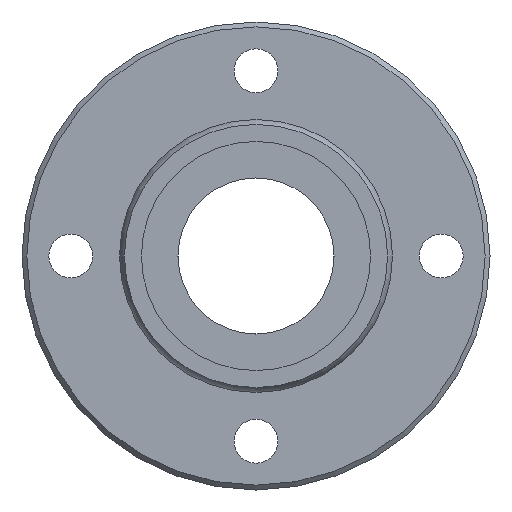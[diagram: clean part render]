
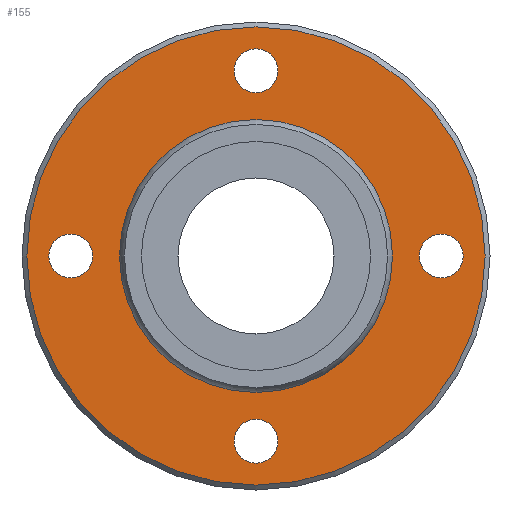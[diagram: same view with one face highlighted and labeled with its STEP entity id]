
A CAD part, left-side view. The second image highlights one B-rep face of the part: STEP entity #155.
In plain terms, the highlighted planar face has unit normal (-1, 0, 0).
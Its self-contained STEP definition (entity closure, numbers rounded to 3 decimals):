
#60=CARTESIAN_POINT('',(11.,0.,23.5));
#61=VERTEX_POINT('',#60);
#62=CARTESIAN_POINT('',(11.,0.0,0.0));
#63=DIRECTION('',(1.0,0.0,0.0));
#64=DIRECTION('',(0.0,0.0,-1.0));
#65=AXIS2_PLACEMENT_3D('',#62,#63,#64);
#66=CIRCLE('',#65,23.5);
#67=EDGE_CURVE('',#61,#61,#66,.T.);
#92=CARTESIAN_POINT('',(11.,0.0,18.887));
#93=DIRECTION('',(-1.0,0.0,0.0));
#94=DIRECTION('',(0.0,0.0,1.0));
#95=AXIS2_PLACEMENT_3D('',#92,#93,#94);
#96=PLANE('',#95);
#97=ORIENTED_EDGE('',*,*,#67,.F.);
#98=EDGE_LOOP('',(#97));
#99=FACE_OUTER_BOUND('',#98,.T.);
#100=CARTESIAN_POINT('',(11.,0.0,13.773));
#101=VERTEX_POINT('',#100);
#102=CARTESIAN_POINT('',(11.,0.0,0.0));
#103=DIRECTION('',(-1.0,0.0,0.0));
#104=DIRECTION('',(0.0,0.0,1.0));
#105=AXIS2_PLACEMENT_3D('',#102,#103,#104);
#106=CIRCLE('',#105,13.773);
#107=EDGE_CURVE('',#101,#101,#106,.T.);
#108=ORIENTED_EDGE('',*,*,#107,.F.);
#109=EDGE_LOOP('',(#108));
#110=FACE_BOUND('',#109,.T.);
#111=CARTESIAN_POINT('',(11.,16.75,0.));
#112=VERTEX_POINT('',#111);
#113=CARTESIAN_POINT('',(11.,19.0,0.));
#114=DIRECTION('',(1.0,0.0,0.0));
#115=DIRECTION('',(0.0,1.0,0.0));
#116=AXIS2_PLACEMENT_3D('',#113,#114,#115);
#117=CIRCLE('',#116,2.25);
#118=EDGE_CURVE('',#112,#112,#117,.T.);
#119=ORIENTED_EDGE('',*,*,#118,.T.);
#120=EDGE_LOOP('',(#119));
#121=FACE_BOUND('',#120,.T.);
#122=CARTESIAN_POINT('',(11.,-21.25,0.));
#123=VERTEX_POINT('',#122);
#124=CARTESIAN_POINT('',(11.,-19.0,0.0));
#125=DIRECTION('',(1.0,0.0,0.0));
#126=DIRECTION('',(0.0,1.0,0.0));
#127=AXIS2_PLACEMENT_3D('',#124,#125,#126);
#128=CIRCLE('',#127,2.25);
#129=EDGE_CURVE('',#123,#123,#128,.T.);
#130=ORIENTED_EDGE('',*,*,#129,.T.);
#131=EDGE_LOOP('',(#130));
#132=FACE_BOUND('',#131,.T.);
#133=CARTESIAN_POINT('',(11.,-2.25,19.0));
#134=VERTEX_POINT('',#133);
#135=CARTESIAN_POINT('',(11.,0.,19.0));
#136=DIRECTION('',(1.0,0.0,0.0));
#137=DIRECTION('',(0.0,1.0,0.0));
#138=AXIS2_PLACEMENT_3D('',#135,#136,#137);
#139=CIRCLE('',#138,2.25);
#140=EDGE_CURVE('',#134,#134,#139,.T.);
#141=ORIENTED_EDGE('',*,*,#140,.T.);
#142=EDGE_LOOP('',(#141));
#143=FACE_BOUND('',#142,.T.);
#144=CARTESIAN_POINT('',(11.,-2.25,-19.0));
#145=VERTEX_POINT('',#144);
#146=CARTESIAN_POINT('',(11.,0.,-19.0));
#147=DIRECTION('',(1.0,0.0,0.0));
#148=DIRECTION('',(0.0,1.0,0.0));
#149=AXIS2_PLACEMENT_3D('',#146,#147,#148);
#150=CIRCLE('',#149,2.25);
#151=EDGE_CURVE('',#145,#145,#150,.T.);
#152=ORIENTED_EDGE('',*,*,#151,.T.);
#153=EDGE_LOOP('',(#152));
#154=FACE_BOUND('',#153,.T.);
#155=ADVANCED_FACE('',(#99,#110,#121,#132,#143,#154),#96,.T.);
